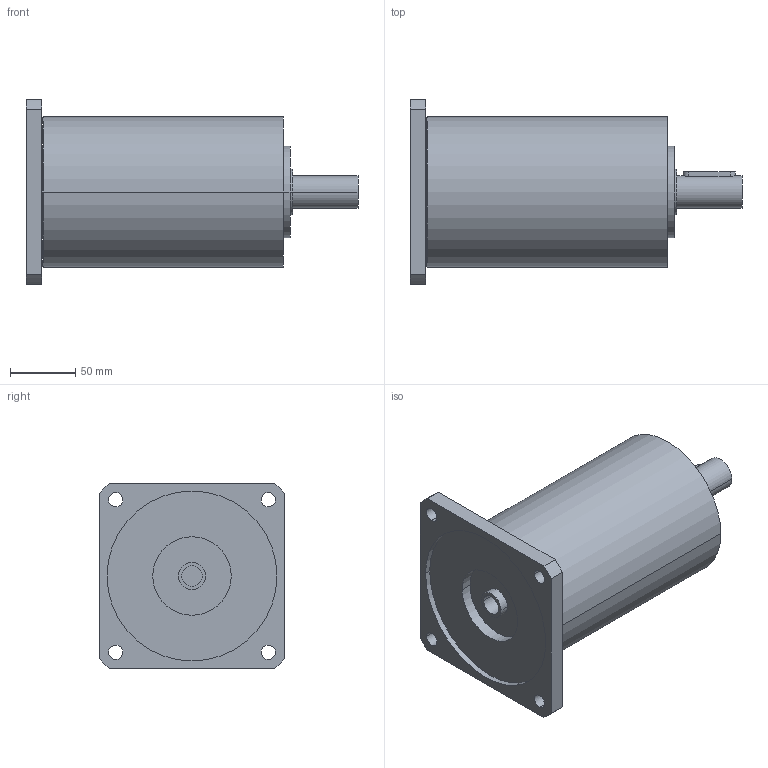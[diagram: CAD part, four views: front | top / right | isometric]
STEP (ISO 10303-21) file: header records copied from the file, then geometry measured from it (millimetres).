
FILE_DESCRIPTION(('CoCreate Modeling STEP Export'),'2;1');
FILE_NAME('GPR125_ig-48-64-80-100-140-196-245-343_25_B14_15.87_P08.stp','2014-08-26T14:21:05',(''),(''),'CoCreate Modeling STEP processor for AP214 (Solid Model)','CoCreate Modeling 16.00C 25-Feb-2009 (C) Parametric Technology GmbH','');
FILE_SCHEMA(('AUTOMOTIVE_DESIGN { 1 0 10303 214 1 1 1 1 }'));
Length unit declared in the file: millimetre
Products named in the file (2): GPR125_ig-48-64-80-100-140-196-245-343_25_B14_15.87_P08
Assembly tree (1 placements, depth 2):
  GPR125_ig-48-64-80-100-140-196-245-343_25_B14_15.87_P08
    GPR125_ig-48-64-80-100-140-196-245-343_25_B14_15.87_P08
Bounding box: 254 x 142 x 142 mm (x, y, z)
Volume: 2103855.3 mm3; surface area: 141242.2 mm2
Topology: 1 solids, 1 shells, 68 faces, 186 edges, 132 vertices
Faces by surface type: cylinder 42, plane 22, cone 4
Entity records: 1918 total; most frequent: ORIENTED_EDGE 368, CARTESIAN_POINT 361, DIRECTION 258, EDGE_CURVE 184, VERTEX_POINT 132, AXIS2_PLACEMENT_3D 97, EDGE_LOOP 90, FACE_OUTER_BOUND 68
